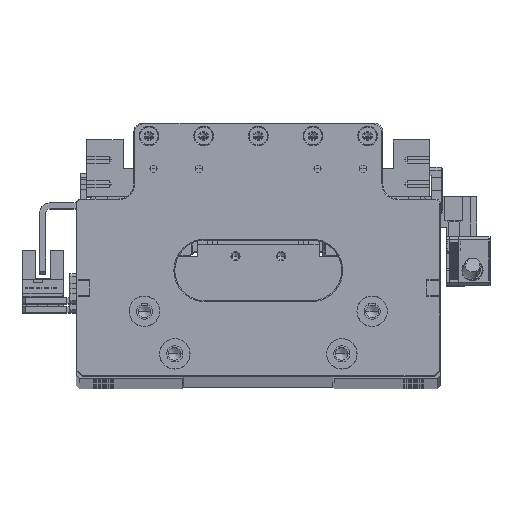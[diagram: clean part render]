
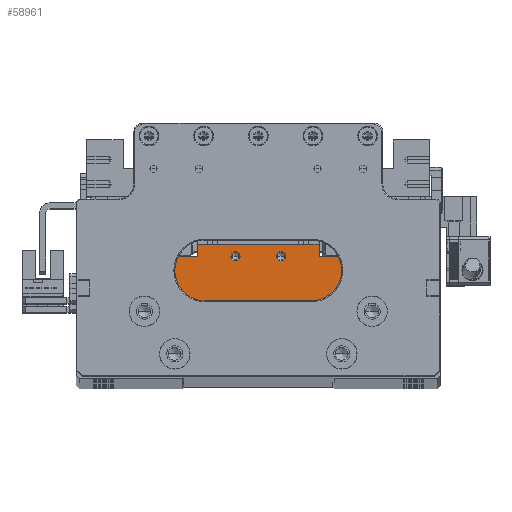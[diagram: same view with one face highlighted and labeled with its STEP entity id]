
A CAD part, top view. The second image highlights one B-rep face of the part: STEP entity #58961.
In plain terms, the highlighted planar face has unit normal (0, 0, 1).
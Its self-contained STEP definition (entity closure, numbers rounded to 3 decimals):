
#190 = DIRECTION ( 'NONE',  ( 1., 0., 0. ) ) ;
#1005 = AXIS2_PLACEMENT_3D ( 'NONE', #128764, #64426, #190 ) ;
#1972 = EDGE_LOOP ( 'NONE', ( #99390, #69540 ) ) ;
#2697 = DIRECTION ( 'NONE',  ( 1., 0., 0. ) ) ;
#4595 = CARTESIAN_POINT ( 'NONE',  ( -7.669, 6.304, 411.036 ) ) ;
#7861 = CIRCLE ( 'NONE', #1005, 1.525 ) ;
#10855 = ORIENTED_EDGE ( 'NONE', *, *, #11175, .F. ) ;
#11175 = EDGE_CURVE ( 'NONE', #41088, #61599, #116475, .T. ) ;
#12062 = AXIS2_PLACEMENT_3D ( 'NONE', #16407, #91391, #27252 ) ;
#12683 = AXIS2_PLACEMENT_3D ( 'NONE', #131220, #66887, #2697 ) ;
#14366 = LINE ( 'NONE', #26333, #56316 ) ;
#15375 = LINE ( 'NONE', #89708, #69026 ) ;
#15723 = CARTESIAN_POINT ( 'NONE',  ( 28.206, -1.296, 411.036 ) ) ;
#16407 = CARTESIAN_POINT ( 'NONE',  ( -9.194, 6.304, 411.036 ) ) ;
#18611 = AXIS2_PLACEMENT_3D ( 'NONE', #101445, #37189, #112239 ) ;
#20688 = ORIENTED_EDGE ( 'NONE', *, *, #124923, .F. ) ;
#22192 = DIRECTION ( 'NONE',  ( 0., -1., 0. ) ) ;
#22302 = EDGE_CURVE ( 'NONE', #115245, #90406, #104457, .T. ) ;
#25077 = CARTESIAN_POINT ( 'NONE',  ( -31.594, 6.204, 411.036 ) ) ;
#25251 = EDGE_CURVE ( 'NONE', #64043, #26704, #15375, .T. ) ;
#25283 = VERTEX_POINT ( 'NONE', #25077 ) ;
#25559 = DIRECTION ( 'NONE',  ( 0., 1., 0. ) ) ;
#25970 = EDGE_CURVE ( 'NONE', #37141, #45093, #30350, .T. ) ;
#26114 = CARTESIAN_POINT ( 'NONE',  ( 18.306, 6.204, 411.036 ) ) ;
#26333 = CARTESIAN_POINT ( 'NONE',  ( -9.194, 10.204, 411.036 ) ) ;
#26704 = VERTEX_POINT ( 'NONE', #61710 ) ;
#27252 = DIRECTION ( 'NONE',  ( 1., 0., 0. ) ) ;
#29143 = EDGE_CURVE ( 'NONE', #40730, #61599, #106840, .T. ) ;
#30350 = CIRCLE ( 'NONE', #12062, 1.525 ) ;
#35009 = EDGE_CURVE ( 'NONE', #128240, #93318, #98933, .T. ) ;
#35802 = ORIENTED_EDGE ( 'NONE', *, *, #35009, .F. ) ;
#36292 = EDGE_CURVE ( 'NONE', #93318, #41088, #95288, .T. ) ;
#37076 = DIRECTION ( 'NONE',  ( 1., 0., 0. ) ) ;
#37141 = VERTEX_POINT ( 'NONE', #53571 ) ;
#37189 = DIRECTION ( 'NONE',  ( 0., 0., 1. ) ) ;
#38007 = DIRECTION ( 'NONE',  ( 1., 0., 0. ) ) ;
#39604 = VECTOR ( 'NONE', #92516, 1000. ) ;
#40730 = VERTEX_POINT ( 'NONE', #137362 ) ;
#41088 = VERTEX_POINT ( 'NONE', #85304 ) ;
#45093 = VERTEX_POINT ( 'NONE', #4595 ) ;
#46132 = ORIENTED_EDGE ( 'NONE', *, *, #75646, .F. ) ;
#51383 = FACE_BOUND ( 'NONE', #134240, .T. ) ;
#53571 = CARTESIAN_POINT ( 'NONE',  ( -10.719, 6.304, 411.036 ) ) ;
#55559 = CARTESIAN_POINT ( 'NONE',  ( -9.194, -1.296, 411.036 ) ) ;
#56316 = VECTOR ( 'NONE', #37076, 1000. ) ;
#56641 = CARTESIAN_POINT ( 'NONE',  ( 7.331, 6.304, 411.036 ) ) ;
#57020 = CARTESIAN_POINT ( 'NONE',  ( 18.306, 10.204, 411.036 ) ) ;
#58663 = EDGE_CURVE ( 'NONE', #90406, #115245, #78245, .T. ) ;
#58815 = DIRECTION ( 'NONE',  ( 0., -1., 0. ) ) ;
#58961 = ADVANCED_FACE ( 'NONE', ( #79838, #108497, #51383 ), #98252, .F. ) ;
#60005 = VECTOR ( 'NONE', #131189, 1000. ) ;
#61599 = VERTEX_POINT ( 'NONE', #99330 ) ;
#61710 = CARTESIAN_POINT ( 'NONE',  ( -21.694, 10.204, 411.036 ) ) ;
#63840 = ORIENTED_EDGE ( 'NONE', *, *, #87931, .F. ) ;
#64043 = VERTEX_POINT ( 'NONE', #113137 ) ;
#64426 = DIRECTION ( 'NONE',  ( 0., 0., 1. ) ) ;
#66314 = DIRECTION ( 'NONE',  ( -1., 0., 0. ) ) ;
#66887 = DIRECTION ( 'NONE',  ( 0., 0., 1. ) ) ;
#68814 = EDGE_CURVE ( 'NONE', #26704, #128240, #14366, .T. ) ;
#69026 = VECTOR ( 'NONE', #25559, 1000. ) ;
#69540 = ORIENTED_EDGE ( 'NONE', *, *, #58663, .F. ) ;
#70331 = VECTOR ( 'NONE', #22192, 1000. ) ;
#70954 = CARTESIAN_POINT ( 'NONE',  ( -9.194, -12.996, 411.036 ) ) ;
#73211 = ORIENTED_EDGE ( 'NONE', *, *, #68814, .F. ) ;
#73400 = AXIS2_PLACEMENT_3D ( 'NONE', #55559, #130642, #66314 ) ;
#75646 = EDGE_CURVE ( 'NONE', #40730, #25283, #118462, .T. ) ;
#78245 = CIRCLE ( 'NONE', #18611, 1.525 ) ;
#79838 = FACE_OUTER_BOUND ( 'NONE', #131022, .T. ) ;
#85304 = CARTESIAN_POINT ( 'NONE',  ( 28.206, 6.204, 411.036 ) ) ;
#86963 = ORIENTED_EDGE ( 'NONE', *, *, #36292, .F. ) ;
#87931 = EDGE_CURVE ( 'NONE', #45093, #37141, #7861, .T. ) ;
#88250 = ORIENTED_EDGE ( 'NONE', *, *, #25251, .F. ) ;
#89708 = CARTESIAN_POINT ( 'NONE',  ( -21.694, -1.296, 411.036 ) ) ;
#90406 = VERTEX_POINT ( 'NONE', #119745 ) ;
#91391 = DIRECTION ( 'NONE',  ( 0., 0., 1. ) ) ;
#92449 = CARTESIAN_POINT ( 'NONE',  ( -31.594, -1.296, 411.036 ) ) ;
#92516 = DIRECTION ( 'NONE',  ( 1., 0., 0. ) ) ;
#93318 = VERTEX_POINT ( 'NONE', #26114 ) ;
#95288 = LINE ( 'NONE', #98805, #60005 ) ;
#98252 = PLANE ( 'NONE',  #73400 ) ;
#98805 = CARTESIAN_POINT ( 'NONE',  ( -9.194, 6.204, 411.036 ) ) ;
#98933 = LINE ( 'NONE', #118313, #70331 ) ;
#99330 = CARTESIAN_POINT ( 'NONE',  ( 28.206, -12.996, 411.036 ) ) ;
#99390 = ORIENTED_EDGE ( 'NONE', *, *, #22302, .F. ) ;
#101445 = CARTESIAN_POINT ( 'NONE',  ( 5.806, 6.304, 411.036 ) ) ;
#101656 = ORIENTED_EDGE ( 'NONE', *, *, #25970, .F. ) ;
#101797 = CARTESIAN_POINT ( 'NONE',  ( -9.194, 6.204, 411.036 ) ) ;
#104457 = CIRCLE ( 'NONE', #12683, 1.525 ) ;
#106840 = LINE ( 'NONE', #70954, #39604 ) ;
#108497 = FACE_BOUND ( 'NONE', #1972, .T. ) ;
#109047 = LINE ( 'NONE', #101797, #134189 ) ;
#109732 = VECTOR ( 'NONE', #58815, 1000. ) ;
#112239 = DIRECTION ( 'NONE',  ( 1., 0., 0. ) ) ;
#113137 = CARTESIAN_POINT ( 'NONE',  ( -21.694, 6.204, 411.036 ) ) ;
#115245 = VERTEX_POINT ( 'NONE', #56641 ) ;
#116475 = LINE ( 'NONE', #15723, #109732 ) ;
#118313 = CARTESIAN_POINT ( 'NONE',  ( 18.306, -1.296, 411.036 ) ) ;
#118462 = LINE ( 'NONE', #92449, #121821 ) ;
#119745 = CARTESIAN_POINT ( 'NONE',  ( 4.281, 6.304, 411.036 ) ) ;
#121821 = VECTOR ( 'NONE', #124445, 1000. ) ;
#124445 = DIRECTION ( 'NONE',  ( 0., 1., 0. ) ) ;
#124923 = EDGE_CURVE ( 'NONE', #25283, #64043, #109047, .T. ) ;
#128240 = VERTEX_POINT ( 'NONE', #57020 ) ;
#128764 = CARTESIAN_POINT ( 'NONE',  ( -9.194, 6.304, 411.036 ) ) ;
#130642 = DIRECTION ( 'NONE',  ( 0., 0., -1. ) ) ;
#130648 = ORIENTED_EDGE ( 'NONE', *, *, #29143, .T. ) ;
#131022 = EDGE_LOOP ( 'NONE', ( #20688, #46132, #130648, #10855, #86963, #35802, #73211, #88250 ) ) ;
#131189 = DIRECTION ( 'NONE',  ( 1., 0., 0. ) ) ;
#131220 = CARTESIAN_POINT ( 'NONE',  ( 5.806, 6.304, 411.036 ) ) ;
#134189 = VECTOR ( 'NONE', #38007, 1000. ) ;
#134240 = EDGE_LOOP ( 'NONE', ( #63840, #101656 ) ) ;
#137362 = CARTESIAN_POINT ( 'NONE',  ( -31.594, -12.996, 411.036 ) ) ;
